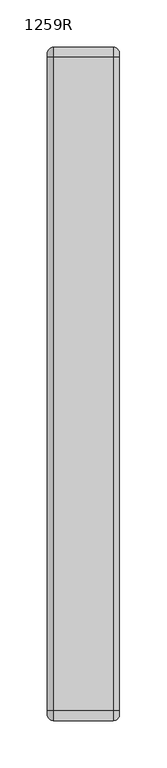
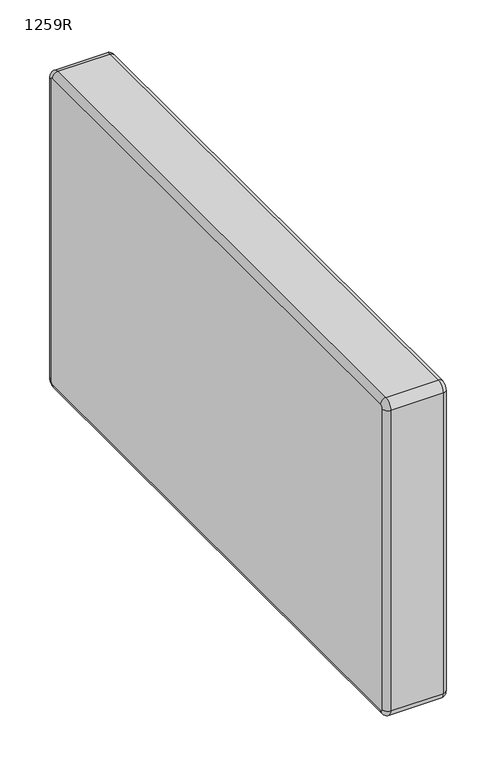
"""IFC4 building model written with IfcOpenShell, lengths in millimetres: furniture geometry, Laguna-Arm-Slim-ERG : 1259R."""

from ifc_helpers import new_model, si_unit, point, frame, origin, place, context, project, spatial, circle_curve, ellipse_curve, trimmed, source, transform, mapped, element, save
from ifc_brep_helpers import plane_surface, cylinder_surface, revolved_surface, advanced_brep


def furniture_1259r_cefcaaf9(model_context):
    return source(origin(), model_context, "Body", "AdvancedBrep", [
        advanced_brep(
        [(-4656.3921763, 548.3558502, 599.44), (-4656.3921763, 558.5158502, 609.6), (-4662.7421763, 558.5158502, 603.25), (-4662.7421763, 554.7058502, 599.44), (-4662.7421763, 554.7058502, 213.36), (-4656.3921763, 548.3558502, 213.36), (-4662.7421763, 558.5158502, 209.55), (-4656.3921763, 558.5158502, 203.2), (-4662.7421763, 1249.3958502, 209.55), (-4656.3921763, 1249.3958502, 203.2), (-4662.7421763, 1253.2058502, 213.36), (-4656.3921763, 1259.5558502, 213.36), (-4662.7421763, 1253.2058502, 599.44), (-4656.3921763, 1259.5558502, 599.44), (-4662.7421763, 1249.3958502, 603.25), (-4656.3921763, 1249.3958502, 609.6), (-4586.5421763, 558.5158502, 603.25), (-4586.5421763, 554.7058502, 599.44), (-4586.5421763, 554.7058502, 213.36), (-4586.5421763, 558.5158502, 209.55), (-4586.5421763, 1249.3958502, 209.55), (-4586.5421763, 1253.2058502, 213.36), (-4586.5421763, 1253.2058502, 599.44), (-4586.5421763, 1249.3958502, 603.25), (-4592.8921763, 548.3558502, 599.44), (-4592.8921763, 558.5158502, 609.6), (-4592.8921763, 548.3558502, 213.36), (-4592.8921763, 558.5158502, 203.2), (-4592.8921763, 1249.3958502, 203.2), (-4592.8921763, 1259.5558502, 213.36), (-4592.8921763, 1259.5558502, 599.44), (-4592.8921763, 1249.3958502, 609.6)],
        [
            (0, 1, circle_curve(frame((-4656.3921763, 558.5158502, 599.44), z_axis=(-1.0, 0.0, 0.0), x_axis=(0.0, 0.0, 1.0)), 10.16)),
            (1, 2, circle_curve(frame((-4656.3921763, 558.5158502, 603.25), z_axis=(0.0, -1.0, 0.0), x_axis=(-1.0, 0.0, 0.0)), 6.35)),
            (2, 3, circle_curve(frame((-4662.7421763, 558.5158502, 599.44), z_axis=(1.0, 0.0, 0.0), x_axis=(0.0, 0.0, 1.0)), 3.81)),
            (3, 0, circle_curve(frame((-4656.3921763, 554.7058502, 599.44), z_axis=(0.0, 0.0, 1.0), x_axis=(-1.0, 0.0, 0.0)), 6.35)),
            (3, 4),
            (4, 5, circle_curve(frame((-4656.3921763, 554.7058502, 213.36), z_axis=(0.0, 0.0, 1.0), x_axis=(-1.0, 0.0, 0.0)), 6.35)),
            (5, 0),
            (4, 6, circle_curve(frame((-4662.7421763, 558.5158502, 213.36), z_axis=(1.0, 0.0, 0.0), x_axis=(0.0, -1.0, 0.0)), 3.81)),
            (6, 7, circle_curve(frame((-4656.3921763, 558.5158502, 209.55), z_axis=(0.0, -1.0, 0.0), x_axis=(-1.0, 0.0, 0.0)), 6.35)),
            (7, 5, circle_curve(frame((-4656.3921763, 558.5158502, 213.36), z_axis=(-1.0, 0.0, 0.0), x_axis=(0.0, -1.0, 0.0)), 10.16)),
            (6, 8),
            (8, 9, circle_curve(frame((-4656.3921763, 1249.3958502, 209.55), z_axis=(0.0, -1.0, 0.0), x_axis=(-1.0, 0.0, 0.0)), 6.35)),
            (9, 7),
            (8, 10, circle_curve(frame((-4662.7421763, 1249.3958502, 213.36), z_axis=(1.0, 0.0, 0.0), x_axis=(0.0, 0.0, -1.0)), 3.81)),
            (10, 11, circle_curve(frame((-4656.3921763, 1253.2058502, 213.36), z_axis=(0.0, 0.0, -1.0), x_axis=(-1.0, 0.0, 0.0)), 6.35)),
            (11, 9, circle_curve(frame((-4656.3921763, 1249.3958502, 213.36), z_axis=(-1.0, 0.0, 0.0), x_axis=(0.0, 0.0, -1.0)), 10.16)),
            (10, 12),
            (12, 13, circle_curve(frame((-4656.3921763, 1253.2058502, 599.44), z_axis=(0.0, 0.0, -1.0), x_axis=(-1.0, 0.0, 0.0)), 6.35)),
            (13, 11),
            (12, 14, circle_curve(frame((-4662.7421763, 1249.3958502, 599.44), z_axis=(1.0, 0.0, 0.0), x_axis=(0.0, 1.0, 0.0)), 3.81)),
            (14, 15, circle_curve(frame((-4656.3921763, 1249.3958502, 603.25), z_axis=(0.0, 1.0, 0.0), x_axis=(-1.0, 0.0, 0.0)), 6.35)),
            (15, 13, circle_curve(frame((-4656.3921763, 1249.3958502, 599.44), z_axis=(-1.0, 0.0, 0.0), x_axis=(0.0, 1.0, 0.0)), 10.16)),
            (1, 15),
            (14, 2),
            (16, 17, circle_curve(frame((-4586.5421763, 558.5158502, 599.44), z_axis=(1.0, 0.0, 0.0), x_axis=(0.0, 0.0, 1.0)), 3.81)),
            (17, 18),
            (18, 19, circle_curve(frame((-4586.5421763, 558.5158502, 213.36), z_axis=(1.0, 0.0, 0.0), x_axis=(0.0, -1.0, 0.0)), 3.81)),
            (19, 20),
            (20, 21, circle_curve(frame((-4586.5421763, 1249.3958502, 213.36), z_axis=(1.0, 0.0, 0.0), x_axis=(0.0, 0.0, -1.0)), 3.81)),
            (21, 22),
            (22, 23, circle_curve(frame((-4586.5421763, 1249.3958502, 599.44), z_axis=(1.0, 0.0, 0.0), x_axis=(0.0, 1.0, 0.0)), 3.81)),
            (23, 16),
            (0, 24),
            (24, 25, circle_curve(frame((-4592.8921763, 558.5158502, 599.44), z_axis=(-1.0, 0.0, 0.0), x_axis=(0.0, 0.0, 1.0)), 10.16)),
            (25, 1),
            (24, 17, circle_curve(frame((-4592.8921763, 554.7058502, 599.44), z_axis=(0.0, 0.0, 1.0), x_axis=(1.0, 0.0, 0.0)), 6.35)),
            (16, 25, circle_curve(frame((-4592.8921763, 558.5158502, 603.25), z_axis=(0.0, -1.0, 0.0), x_axis=(1.0, 0.0, 0.0)), 6.35)),
            (5, 26),
            (26, 24),
            (26, 18, circle_curve(frame((-4592.8921763, 554.7058502, 213.36), z_axis=(0.0, 0.0, 1.0), x_axis=(1.0, 0.0, 0.0)), 6.35)),
            (7, 27),
            (27, 26, circle_curve(frame((-4592.8921763, 558.5158502, 213.36), z_axis=(-1.0, 0.0, 0.0), x_axis=(0.0, -1.0, 0.0)), 10.16)),
            (27, 19, circle_curve(frame((-4592.8921763, 558.5158502, 209.55), z_axis=(0.0, -1.0, 0.0), x_axis=(1.0, 0.0, 0.0)), 6.35)),
            (9, 28),
            (28, 27),
            (28, 20, circle_curve(frame((-4592.8921763, 1249.3958502, 209.55), z_axis=(0.0, -1.0, 0.0), x_axis=(1.0, 0.0, 0.0)), 6.35)),
            (11, 29),
            (29, 28, circle_curve(frame((-4592.8921763, 1249.3958502, 213.36), z_axis=(-1.0, 0.0, 0.0), x_axis=(0.0, 0.0, -1.0)), 10.16)),
            (29, 21, circle_curve(frame((-4592.8921763, 1253.2058502, 213.36), z_axis=(0.0, 0.0, -1.0), x_axis=(1.0, 0.0, 0.0)), 6.35)),
            (13, 30),
            (30, 29),
            (30, 22, circle_curve(frame((-4592.8921763, 1253.2058502, 599.44), z_axis=(0.0, 0.0, -1.0), x_axis=(1.0, 0.0, 0.0)), 6.35)),
            (15, 31),
            (31, 30, circle_curve(frame((-4592.8921763, 1249.3958502, 599.44), z_axis=(-1.0, 0.0, 0.0), x_axis=(0.0, 1.0, 0.0)), 10.16)),
            (31, 23, circle_curve(frame((-4592.8921763, 1249.3958502, 603.25), z_axis=(0.0, 1.0, 0.0), x_axis=(1.0, 0.0, 0.0)), 6.35)),
            (25, 31),
        ],
        [
            revolved_surface(trimmed(ellipse_curve(frame((-4656.3921763, 558.5158502, 603.25), z_axis=(0.0, 1.0, 0.0), x_axis=(-1.0, 0.0, 0.0)), 6.35, 6.35), [point((-4662.7421763, 558.5158502, 603.25))], [point((-4656.3921763, 558.5158502, 609.6))], True, "CARTESIAN"), (-4656.3921763, 558.5158502, 599.44), (1.0, 0.0, 0.0)),
            cylinder_surface(frame((-4656.3921763, 554.7058502, 599.44), z_axis=(0.0, 0.0, 1.0), x_axis=(-1.0, 0.0, 0.0)), 6.35),
            revolved_surface(trimmed(ellipse_curve(frame((-4656.3921763, 554.7058502, 213.36), z_axis=(0.0, 0.0, 1.0), x_axis=(-1.0, 0.0, 0.0)), 6.35, 6.35), [point((-4662.7421763, 554.7058502, 213.36))], [point((-4656.3921763, 548.3558502, 213.36))], True, "CARTESIAN"), (-4656.3921763, 558.5158502, 213.36), (1.0, 0.0, 0.0)),
            cylinder_surface(frame((-4656.3921763, 558.5158502, 209.55), z_axis=(0.0, -1.0, 0.0), x_axis=(-1.0, 0.0, 0.0)), 6.35),
            revolved_surface(trimmed(ellipse_curve(frame((-4656.3921763, 1249.3958502, 209.55), z_axis=(0.0, -1.0, 0.0), x_axis=(-1.0, 0.0, 0.0)), 6.35, 6.35), [point((-4662.7421763, 1249.3958502, 209.55))], [point((-4656.3921763, 1249.3958502, 203.2))], True, "CARTESIAN"), (-4656.3921763, 1249.3958502, 213.36), (1.0, 0.0, 0.0)),
            cylinder_surface(frame((-4656.3921763, 1253.2058502, 213.36), z_axis=(0.0, 0.0, -1.0), x_axis=(-1.0, 0.0, 0.0)), 6.35),
            revolved_surface(trimmed(ellipse_curve(frame((-4656.3921763, 1253.2058502, 599.44), z_axis=(0.0, 0.0, -1.0), x_axis=(-1.0, 0.0, 0.0)), 6.35, 6.35), [point((-4662.7421763, 1253.2058502, 599.44))], [point((-4656.3921763, 1259.5558502, 599.44))], True, "CARTESIAN"), (-4656.3921763, 1249.3958502, 599.44), (1.0, 0.0, 0.0)),
            cylinder_surface(frame((-4656.3921763, 1249.3958502, 603.25), z_axis=(0.0, 1.0, 0.0), x_axis=(-1.0, 0.0, 0.0)), 6.35),
            plane_surface(frame((-4662.7421763, 1253.2058502, 599.44), z_axis=(-1.0, 0.0, 0.0), x_axis=(0.0, 0.0, -1.0))),
            plane_surface(frame((-4586.5421763, 1253.2058502, 599.44), z_axis=(1.0, 0.0, 0.0), x_axis=(0.0, 0.0, 1.0))),
            cylinder_surface(frame((-4656.3921763, 558.5158502, 599.44), z_axis=(1.0, 0.0, 0.0), x_axis=(0.0, 0.0, 1.0)), 10.16),
            revolved_surface(trimmed(ellipse_curve(frame((-4592.8921763, 558.5158502, 603.25), z_axis=(0.0, 1.0, 0.0), x_axis=(1.0, 0.0, 0.0)), 6.35, 6.35), [point((-4592.8921763, 558.5158502, 609.6))], [point((-4586.5421763, 558.5158502, 603.25))], True, "CARTESIAN"), (-4656.3921763, 558.5158502, 599.44), (1.0, 0.0, 0.0)),
            plane_surface(frame((-4656.3921763, 548.3558502, 599.44), z_axis=(0.0, -1.0, 0.0), x_axis=(0.0, 0.0, -1.0))),
            cylinder_surface(frame((-4592.8921763, 554.7058502, 599.44), z_axis=(0.0, 0.0, 1.0), x_axis=(1.0, 0.0, 0.0)), 6.35),
            cylinder_surface(frame((-4656.3921763, 558.5158502, 213.36), z_axis=(1.0, 0.0, 0.0), x_axis=(0.0, -1.0, 0.0)), 10.16),
            revolved_surface(trimmed(ellipse_curve(frame((-4592.8921763, 554.7058502, 213.36), z_axis=(0.0, 0.0, 1.0), x_axis=(1.0, 0.0, 0.0)), 6.35, 6.35), [point((-4592.8921763, 548.3558502, 213.36))], [point((-4586.5421763, 554.7058502, 213.36))], True, "CARTESIAN"), (-4656.3921763, 558.5158502, 213.36), (1.0, 0.0, 0.0)),
            plane_surface(frame((-4656.3921763, 558.5158502, 203.2), z_axis=(0.0, 0.0, -1.0), x_axis=(0.0, 1.0, 0.0))),
            cylinder_surface(frame((-4592.8921763, 558.5158502, 209.55), z_axis=(0.0, -1.0, 0.0), x_axis=(1.0, 0.0, 0.0)), 6.35),
            cylinder_surface(frame((-4656.3921763, 1249.3958502, 213.36), z_axis=(1.0, 0.0, 0.0), x_axis=(0.0, 0.0, -1.0)), 10.16),
            revolved_surface(trimmed(ellipse_curve(frame((-4592.8921763, 1249.3958502, 209.55), z_axis=(0.0, -1.0, 0.0), x_axis=(1.0, 0.0, 0.0)), 6.35, 6.35), [point((-4592.8921763, 1249.3958502, 203.2))], [point((-4586.5421763, 1249.3958502, 209.55))], True, "CARTESIAN"), (-4656.3921763, 1249.3958502, 213.36), (1.0, 0.0, 0.0)),
            plane_surface(frame((-4656.3921763, 1259.5558502, 213.36), z_axis=(0.0, 1.0, 0.0), x_axis=(0.0, 0.0, 1.0))),
            cylinder_surface(frame((-4592.8921763, 1253.2058502, 213.36), z_axis=(0.0, 0.0, -1.0), x_axis=(1.0, 0.0, 0.0)), 6.35),
            cylinder_surface(frame((-4656.3921763, 1249.3958502, 599.44), z_axis=(1.0, 0.0, 0.0), x_axis=(0.0, 1.0, 0.0)), 10.16),
            revolved_surface(trimmed(ellipse_curve(frame((-4592.8921763, 1253.2058502, 599.44), z_axis=(0.0, 0.0, -1.0), x_axis=(1.0, 0.0, 0.0)), 6.35, 6.35), [point((-4592.8921763, 1259.5558502, 599.44))], [point((-4586.5421763, 1253.2058502, 599.44))], True, "CARTESIAN"), (-4656.3921763, 1249.3958502, 599.44), (1.0, 0.0, 0.0)),
            plane_surface(frame((-4656.3921763, 1249.3958502, 609.6), z_axis=(0.0, 0.0, 1.0), x_axis=(0.0, -1.0, 0.0))),
            cylinder_surface(frame((-4592.8921763, 1249.3958502, 603.25), z_axis=(0.0, 1.0, 0.0), x_axis=(1.0, 0.0, 0.0)), 6.35),
        ],
        [
            (0, [[1, 2, 3, 4]]),
            (1, [[-4, 5, 6, 7]]),
            (2, [[-6, 8, 9, 10]]),
            (3, [[-9, 11, 12, 13]]),
            (4, [[-12, 14, 15, 16]]),
            (5, [[-15, 17, 18, 19]]),
            (6, [[-18, 20, 21, 22]]),
            (7, [[-2, 23, -21, 24]]),
            (8, [[-3, -24, -20, -17, -14, -11, -8, -5]]),
            (9, [[25, 26, 27, 28, 29, 30, 31, 32]]),
            (10, [[-1, 33, 34, 35]]),
            (11, [[-34, 36, -25, 37]]),
            (12, [[-7, 38, 39, -33]]),
            (13, [[-36, -39, 40, -26]]),
            (14, [[-10, 41, 42, -38]]),
            (15, [[-40, -42, 43, -27]]),
            (16, [[-13, 44, 45, -41]]),
            (17, [[-43, -45, 46, -28]]),
            (18, [[-16, 47, 48, -44]]),
            (19, [[-46, -48, 49, -29]]),
            (20, [[-19, 50, 51, -47]]),
            (21, [[-49, -51, 52, -30]]),
            (22, [[-22, 53, 54, -50]]),
            (23, [[-52, -54, 55, -31]]),
            (24, [[-23, -35, 56, -53]]),
            (25, [[-37, -32, -55, -56]]),
        ],
    ),
    ])


if __name__ == "__main__":
    model = new_model("IFC4")
    model_context = context("Model", 3, world=origin())
    ifc_project = project(units=[si_unit("LENGTHUNIT", "METRE", prefix="MILLI")], contexts=[model_context])
    site = spatial("IfcSite", under=ifc_project)
    building = spatial("IfcBuilding", under=site)
    placement = place(None, origin())
    furniture_1259r_shape = furniture_1259r_cefcaaf9(model_context)
    element("IfcFurniture", 1, ObjectType="Laguna-Arm-Slim-ERG : 1259R", at=placement, inside=building, context=model_context, shape_type="MappedRepresentation", body=[
        mapped(furniture_1259r_shape, transform((0.0, 0.0, 0.0), x_axis=(1.0, 0.0, 0.0), y_axis=(0.0, 1.0, 0.0), z_axis=(0.0, 0.0, 1.0))),
    ])
    save(model, "model.ifc")
